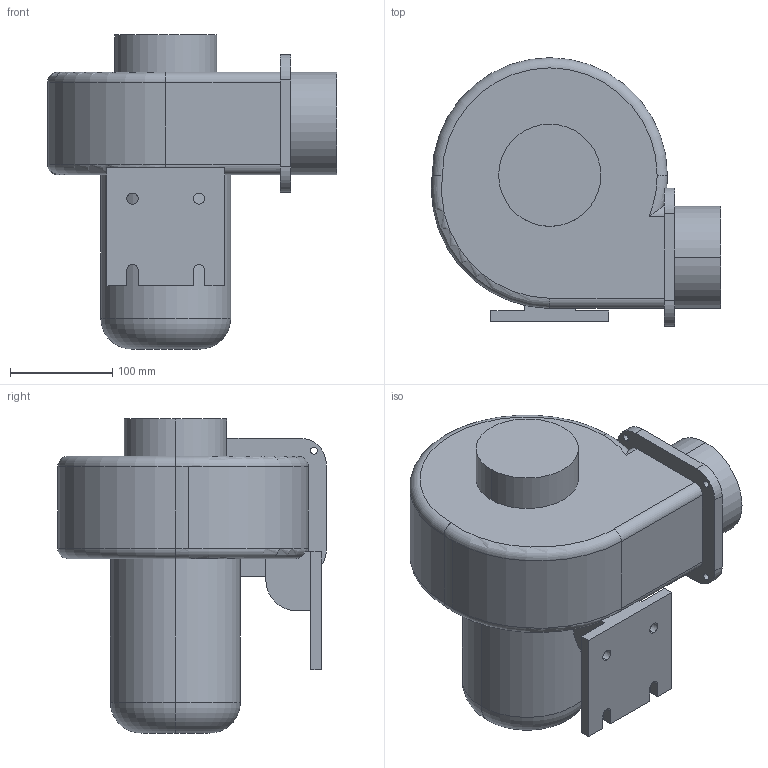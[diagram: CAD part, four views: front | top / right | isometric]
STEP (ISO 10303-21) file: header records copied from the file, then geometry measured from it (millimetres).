
FILE_DESCRIPTION (( 'STEP AP203' ), '1' );
FILE_NAME ('200.STEP', '2019-05-09T03:24:11', ( 'User' ), ( 'www.dadighost.com' ), 'SwSTEP 2.0', 'SolidWorks 2014', '' );
FILE_SCHEMA (( 'CONFIG_CONTROL_DESIGN' ));
Length unit declared in the file: millimetre
Products named in the file (1): 200
Bounding box: 282.71 x 262.5 x 307 mm (x, y, z)
Volume: 7175220.6 mm3; surface area: 346217.9 mm2
Topology: 1 solids, 1 shells, 80 faces, 217 edges, 142 vertices
Faces by surface type: cylinder 36, plane 34, torus 10
Entity records: 2975 total; most frequent: CARTESIAN_POINT 806, DIRECTION 446, ORIENTED_EDGE 434, EDGE_CURVE 217, AXIS2_PLACEMENT_3D 168, VERTEX_POINT 142, LINE 110, VECTOR 110
